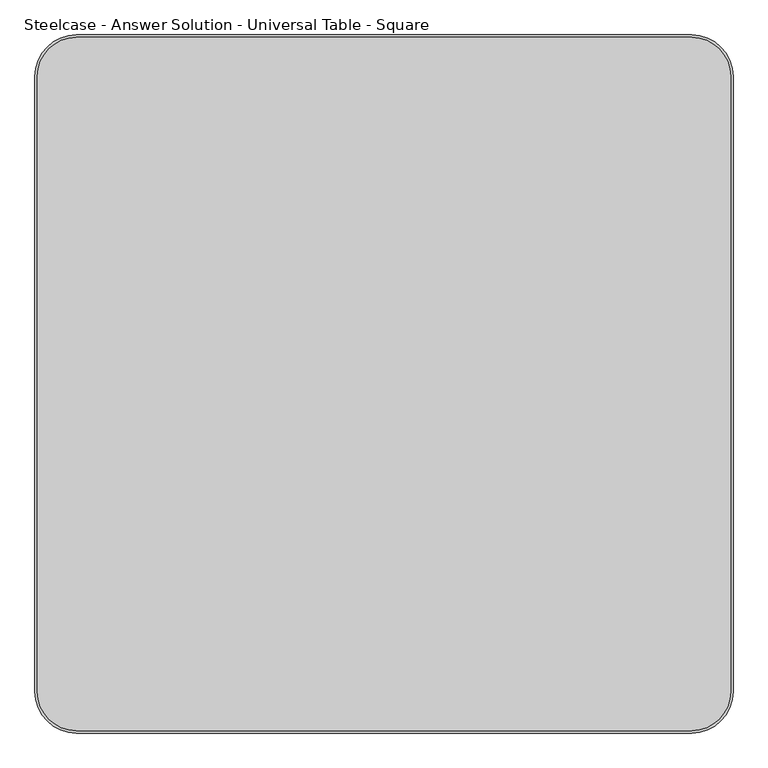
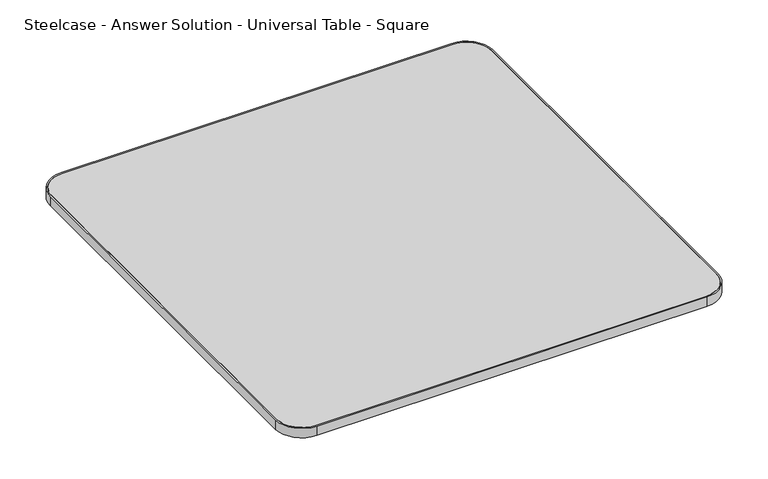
"""IFC4 building model written with IfcOpenShell, lengths in millimetres: furniture geometry, Steelcase - Answer Solution - Universal Table - Square : 54D x 54W."""

from ifc_helpers import new_model, si_unit, point, frame, frame_2d, origin, place, context, project, spatial, polyline, circle_curve, trimmed, segment, composite_curve, outline, extrude, source, transform, mapped, element, save


def steelcase_answer_solution_universal_table_square_e7776e50(model_context):
    return source(origin(), model_context, "Body", "SweptSolid", [
        extrude(outline(composite_curve([segment(polyline([(5.08, -1290.32), (5.08, -81.28)]), True, "CONTINUOUS"), segment(trimmed(circle_curve(frame_2d((81.28, -81.28)), 76.2), [point((5.08, -81.28))], [point((81.28, -5.08))], False, "CARTESIAN"), True, "CONTINUOUS"), segment(polyline([(81.28, -5.08), (1290.32, -5.08)]), True, "CONTINUOUS"), segment(trimmed(circle_curve(frame_2d((1290.32, -81.28)), 76.2), [point((1290.32, -5.08))], [point((1366.52, -81.28))], False, "CARTESIAN"), True, "CONTINUOUS"), segment(polyline([(1366.52, -81.28), (1366.52, -1290.32)]), True, "CONTINUOUS"), segment(trimmed(circle_curve(frame_2d((1290.32, -1290.32)), 76.2), [point((1366.52, -1290.32))], [point((1290.32, -1366.52))], False, "CARTESIAN"), True, "CONTINUOUS"), segment(polyline([(1290.32, -1366.52), (81.28, -1366.52)]), True, "CONTINUOUS"), segment(trimmed(circle_curve(frame_2d((81.28, -1290.32)), 76.2), [point((81.28, -1366.52))], [point((5.08, -1290.32))], False, "CARTESIAN"), True, "CONTINUOUS")], self_intersect=False)), frame((0.0, 0.0, 668.274), z_axis=(0.0, 0.0, 1.0), x_axis=(1.0, 0.0, 0.0)), (0.0, 0.0, 1.0), 30.0990349),
        extrude(outline(composite_curve([segment(polyline([(81.28, 0.0), (1290.32, 0.0)]), True, "CONTINUOUS"), segment(trimmed(circle_curve(frame_2d((1290.32, -81.28)), 81.28), [point((1290.32, 0.0))], [point((1371.6, -81.28))], False, "CARTESIAN"), True, "CONTINUOUS"), segment(polyline([(1371.6, -81.28), (1371.6, -1290.32)]), True, "CONTINUOUS"), segment(trimmed(circle_curve(frame_2d((1290.32, -1290.32)), 81.28), [point((1371.6, -1290.32))], [point((1290.32, -1371.6))], False, "CARTESIAN"), True, "CONTINUOUS"), segment(polyline([(1290.32, -1371.6), (81.28, -1371.6)]), True, "CONTINUOUS"), segment(trimmed(circle_curve(frame_2d((81.28, -1290.32)), 81.28), [point((81.28, -1371.6))], [point((0.0, -1290.32))], False, "CARTESIAN"), True, "CONTINUOUS"), segment(polyline([(0.0, -1290.32), (0.0, -81.28)]), True, "CONTINUOUS"), segment(trimmed(circle_curve(frame_2d((81.28, -81.28)), 81.28), [point((0.0, -81.28))], [point((81.28, 0.0))], False, "CARTESIAN"), True, "CONTINUOUS")], self_intersect=False), holes=[composite_curve([segment(trimmed(circle_curve(frame_2d((81.28, -81.28)), 76.2), [point((81.28, -5.08))], [point((5.08, -81.28))], True, "CARTESIAN"), True, "CONTINUOUS"), segment(polyline([(5.08, -81.28), (5.08, -1290.32)]), True, "CONTINUOUS"), segment(trimmed(circle_curve(frame_2d((81.28, -1290.32)), 76.2), [point((5.08, -1290.32))], [point((81.28, -1366.52))], True, "CARTESIAN"), True, "CONTINUOUS"), segment(polyline([(81.28, -1366.52), (1290.32, -1366.52)]), True, "CONTINUOUS"), segment(trimmed(circle_curve(frame_2d((1290.32, -1290.32)), 76.2), [point((1290.32, -1366.52))], [point((1366.52, -1290.32))], True, "CARTESIAN"), True, "CONTINUOUS"), segment(polyline([(1366.52, -1290.32), (1366.52, -81.28)]), True, "CONTINUOUS"), segment(trimmed(circle_curve(frame_2d((1290.32, -81.28)), 76.2), [point((1366.52, -81.28))], [point((1290.32, -5.08))], True, "CARTESIAN"), True, "CONTINUOUS"), segment(polyline([(1290.32, -5.08), (81.28, -5.08)]), True, "CONTINUOUS")], self_intersect=False)]), frame((0.0, 0.0, 668.274), z_axis=(0.0, 0.0, 1.0), x_axis=(1.0, 0.0, 0.0)), (0.0, 0.0, 1.0), 30.0990349),
    ])


if __name__ == "__main__":
    model = new_model("IFC4")
    model_context = context("Model", 3, world=origin())
    ifc_project = project(units=[si_unit("LENGTHUNIT", "METRE", prefix="MILLI")], contexts=[model_context])
    site = spatial("IfcSite", under=ifc_project)
    building = spatial("IfcBuilding", under=site)
    placement = place(None, origin())
    steelcase_answer_solution_universal_table_square_shape = steelcase_answer_solution_universal_table_square_e7776e50(model_context)
    element("IfcFurniture", 1, ObjectType="Steelcase - Answer Solution - Universal Table - Square : 54D x 54W", at=placement, inside=building, context=model_context, shape_type="MappedRepresentation", body=[
        mapped(steelcase_answer_solution_universal_table_square_shape, transform((0.0, 0.0, 0.0), x_axis=(1.0, 0.0, 0.0), y_axis=(0.0, 1.0, 0.0), z_axis=(0.0, 0.0, 1.0))),
    ])
    save(model, "model.ifc")
